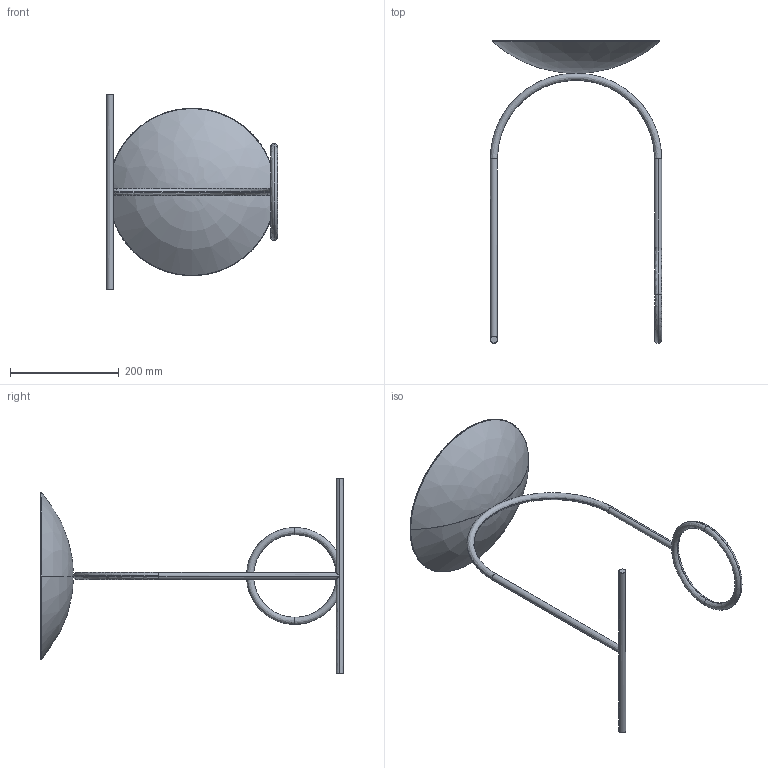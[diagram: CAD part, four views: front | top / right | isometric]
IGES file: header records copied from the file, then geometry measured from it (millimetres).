
Start section: SolidWorks IGES file using analytic representation for surfaces
Global section: file name: Z:\01-VICCARBE\VICCARBE TECNICO 2016\6.- Studio VCCB\Otros\Pedro Venzon\Giro\VICCARBE_GIRO.IGS; native system: SolidWorks 2013; preprocessor: SolidWorks 2013; author: Usuario; date: 180626.091806; units: millimetre
Bounding box: 315 x 556.5 x 360 mm (x, y, z)
Surface area: 236256.7 mm2 (no closed solid volume)
Topology: 0 solids, 0 shells, 21 faces, 306 edges, 305 vertices
Faces by surface type: bspline 12, revolution 9
